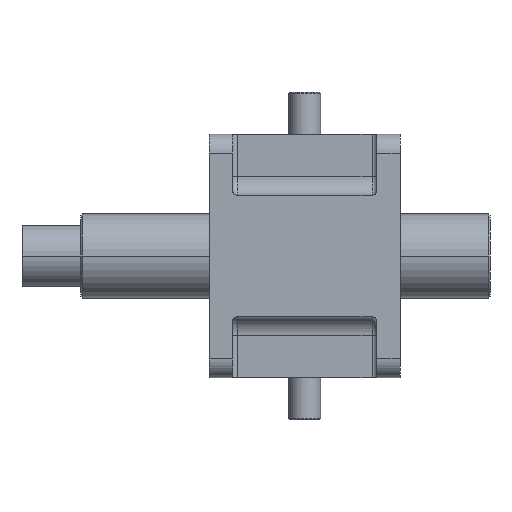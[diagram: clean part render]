
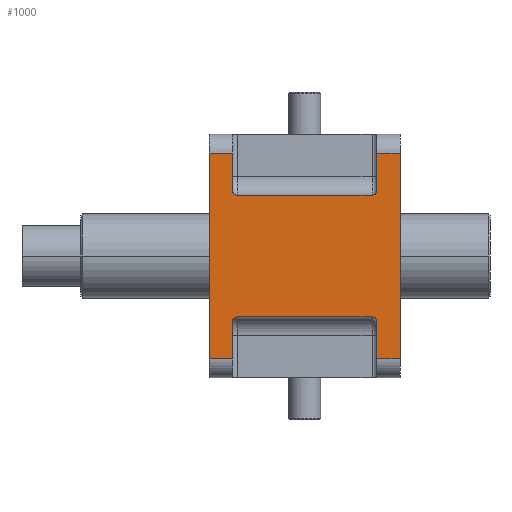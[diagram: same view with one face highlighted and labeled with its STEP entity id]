
A CAD part, left-side view. The second image highlights one B-rep face of the part: STEP entity #1000.
In plain terms, the highlighted planar face has unit normal (-1, 0, 0).
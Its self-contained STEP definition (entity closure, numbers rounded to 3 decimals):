
#249 = VERTEX_POINT ( 'NONE', #2420 ) ;
#293 = VERTEX_POINT ( 'NONE', #2484 ) ;
#979 = ORIENTED_EDGE ( 'NONE', *, *, #1013, .T. ) ;
#980 = EDGE_CURVE ( 'NONE', #992, #984, #3575, .T. ) ;
#981 = EDGE_CURVE ( 'NONE', #249, #984, #3634, .T. ) ;
#982 = ORIENTED_EDGE ( 'NONE', *, *, #980, .F. ) ;
#983 = VERTEX_POINT ( 'NONE', #3630 ) ;
#984 = VERTEX_POINT ( 'NONE', #3629 ) ;
#985 = ORIENTED_EDGE ( 'NONE', *, *, #981, .T. ) ;
#988 = EDGE_CURVE ( 'NONE', #293, #983, #3628, .T. ) ;
#990 = EDGE_CURVE ( 'NONE', #993, #992, #3624, .T. ) ;
#992 = VERTEX_POINT ( 'NONE', #3620 ) ;
#993 = VERTEX_POINT ( 'NONE', #3619 ) ;
#994 = ORIENTED_EDGE ( 'NONE', *, *, #990, .F. ) ;
#997 = ORIENTED_EDGE ( 'NONE', *, *, #988, .F. ) ;
#998 = EDGE_LOOP ( 'NONE', ( #997, #979, #985, #982, #994, #1030, #1016, #1017, #1022, #1007, #1042, #1044, #1046, #1039, #1035, #1054 ) ) ;
#1000 = ADVANCED_FACE ( 'NONE', ( #3612 ), #3607, .F. ) ;
#1007 = ORIENTED_EDGE ( 'NONE', *, *, #1014, .F. ) ;
#1008 = VERTEX_POINT ( 'NONE', #3657 ) ;
#1011 = EDGE_CURVE ( 'NONE', #1018, #1012, #3656, .T. ) ;
#1012 = VERTEX_POINT ( 'NONE', #3652 ) ;
#1013 = EDGE_CURVE ( 'NONE', #293, #249, #3651, .T. ) ;
#1014 = EDGE_CURVE ( 'NONE', #1008, #1012, #3647, .T. ) ;
#1016 = ORIENTED_EDGE ( 'NONE', *, *, #1019, .T. ) ;
#1017 = ORIENTED_EDGE ( 'NONE', *, *, #1021, .T. ) ;
#1018 = VERTEX_POINT ( 'NONE', #3643 ) ;
#1019 = EDGE_CURVE ( 'NONE', #1023, #1020, #3642, .T. ) ;
#1020 = VERTEX_POINT ( 'NONE', #3638 ) ;
#1021 = EDGE_CURVE ( 'NONE', #1020, #1018, #3700, .T. ) ;
#1022 = ORIENTED_EDGE ( 'NONE', *, *, #1011, .T. ) ;
#1023 = VERTEX_POINT ( 'NONE', #3695 ) ;
#1026 = VERTEX_POINT ( 'NONE', #3688 ) ;
#1028 = EDGE_CURVE ( 'NONE', #993, #1023, #3687, .T. ) ;
#1030 = ORIENTED_EDGE ( 'NONE', *, *, #1028, .T. ) ;
#1034 = VERTEX_POINT ( 'NONE', #3677 ) ;
#1035 = ORIENTED_EDGE ( 'NONE', *, *, #1038, .F. ) ;
#1036 = VERTEX_POINT ( 'NONE', #3676 ) ;
#1037 = EDGE_CURVE ( 'NONE', #1036, #1034, #3674, .T. ) ;
#1038 = EDGE_CURVE ( 'NONE', #1026, #1034, #3675, .T. ) ;
#1039 = ORIENTED_EDGE ( 'NONE', *, *, #1037, .T. ) ;
#1040 = VERTEX_POINT ( 'NONE', #3666 ) ;
#1041 = EDGE_CURVE ( 'NONE', #1045, #1036, #3734, .T. ) ;
#1042 = ORIENTED_EDGE ( 'NONE', *, *, #1043, .F. ) ;
#1043 = EDGE_CURVE ( 'NONE', #1040, #1008, #3730, .T. ) ;
#1044 = ORIENTED_EDGE ( 'NONE', *, *, #1047, .T. ) ;
#1045 = VERTEX_POINT ( 'NONE', #3726 ) ;
#1046 = ORIENTED_EDGE ( 'NONE', *, *, #1041, .T. ) ;
#1047 = EDGE_CURVE ( 'NONE', #1040, #1045, #3725, .T. ) ;
#1054 = ORIENTED_EDGE ( 'NONE', *, *, #1055, .T. ) ;
#1055 = EDGE_CURVE ( 'NONE', #1026, #983, #3763, .T. ) ;
#2420 = CARTESIAN_POINT ( 'NONE',  ( -57.404, 0., -191.52 ) ) ;
#2484 = CARTESIAN_POINT ( 'NONE',  ( -57.404, 25., -191.52 ) ) ;
#3575 = LINE ( 'NONE', #3637, #3636 ) ;
#3606 = CARTESIAN_POINT ( 'NONE',  ( -57.404, 204., -191.52 ) ) ;
#3607 = PLANE ( 'NONE',  #3664 ) ;
#3612 = FACE_OUTER_BOUND ( 'NONE', #998, .T. ) ;
#3619 = CARTESIAN_POINT ( 'NONE',  ( -57.404, 25., -11.52 ) ) ;
#3620 = CARTESIAN_POINT ( 'NONE',  ( -57.404, 25., 28.48 ) ) ;
#3621 = DIRECTION ( 'NONE',  ( 0., 0., 1. ) ) ;
#3622 = VECTOR ( 'NONE', #3621, 1000. ) ;
#3623 = CARTESIAN_POINT ( 'NONE',  ( -57.404, 25., 48.48 ) ) ;
#3624 = LINE ( 'NONE', #3623, #3622 ) ;
#3625 = DIRECTION ( 'NONE',  ( 0., 0., 1. ) ) ;
#3626 = VECTOR ( 'NONE', #3625, 1000. ) ;
#3627 = CARTESIAN_POINT ( 'NONE',  ( -57.404, 25., -211.52 ) ) ;
#3628 = LINE ( 'NONE', #3627, #3626 ) ;
#3629 = CARTESIAN_POINT ( 'NONE',  ( -57.404, 0., 28.48 ) ) ;
#3630 = CARTESIAN_POINT ( 'NONE',  ( -57.404, 25., -151.52 ) ) ;
#3631 = DIRECTION ( 'NONE',  ( 0., 0., 1. ) ) ;
#3632 = VECTOR ( 'NONE', #3631, 1000. ) ;
#3633 = CARTESIAN_POINT ( 'NONE',  ( -57.404, 0., -191.52 ) ) ;
#3634 = LINE ( 'NONE', #3633, #3632 ) ;
#3635 = DIRECTION ( 'NONE',  ( 0., -1., 0. ) ) ;
#3636 = VECTOR ( 'NONE', #3635, 1000. ) ;
#3637 = CARTESIAN_POINT ( 'NONE',  ( -57.404, 204., 28.48 ) ) ;
#3638 = CARTESIAN_POINT ( 'NONE',  ( -57.404, 174., -16.52 ) ) ;
#3639 = DIRECTION ( 'NONE',  ( 0., 1., 0. ) ) ;
#3640 = VECTOR ( 'NONE', #3639, 1000. ) ;
#3641 = CARTESIAN_POINT ( 'NONE',  ( -57.404, 25., -16.52 ) ) ;
#3642 = LINE ( 'NONE', #3641, #3640 ) ;
#3643 = CARTESIAN_POINT ( 'NONE',  ( -57.404, 179., -11.52 ) ) ;
#3644 = DIRECTION ( 'NONE',  ( 0., -1., 0. ) ) ;
#3645 = VECTOR ( 'NONE', #3644, 1000. ) ;
#3646 = CARTESIAN_POINT ( 'NONE',  ( -57.404, 204., 28.48 ) ) ;
#3647 = LINE ( 'NONE', #3646, #3645 ) ;
#3648 = DIRECTION ( 'NONE',  ( 0., -1., 0. ) ) ;
#3649 = VECTOR ( 'NONE', #3648, 1000. ) ;
#3650 = CARTESIAN_POINT ( 'NONE',  ( -57.404, 204., -191.52 ) ) ;
#3651 = LINE ( 'NONE', #3650, #3649 ) ;
#3652 = CARTESIAN_POINT ( 'NONE',  ( -57.404, 179., 28.48 ) ) ;
#3653 = DIRECTION ( 'NONE',  ( 0., 0., 1. ) ) ;
#3654 = VECTOR ( 'NONE', #3653, 1000. ) ;
#3655 = CARTESIAN_POINT ( 'NONE',  ( -57.404, 179., 48.48 ) ) ;
#3656 = LINE ( 'NONE', #3655, #3654 ) ;
#3657 = CARTESIAN_POINT ( 'NONE',  ( -57.404, 204., 28.48 ) ) ;
#3662 = DIRECTION ( 'NONE',  ( 0., 0., -1. ) ) ;
#3663 = DIRECTION ( 'NONE',  ( 1., 0., 0. ) ) ;
#3664 = AXIS2_PLACEMENT_3D ( 'NONE', #3606, #3663, #3662 ) ;
#3666 = CARTESIAN_POINT ( 'NONE',  ( -57.404, 204., -191.52 ) ) ;
#3667 = DIRECTION ( 'NONE',  ( 0., 1., 0. ) ) ;
#3668 = VECTOR ( 'NONE', #3667, 1000. ) ;
#3669 = CARTESIAN_POINT ( 'NONE',  ( -57.404, 25., -146.52 ) ) ;
#3670 = DIRECTION ( 'NONE',  ( 0., 0., -1. ) ) ;
#3671 = DIRECTION ( 'NONE',  ( 1., 0., 0. ) ) ;
#3672 = CARTESIAN_POINT ( 'NONE',  ( -57.404, 174., -151.52 ) ) ;
#3673 = AXIS2_PLACEMENT_3D ( 'NONE', #3672, #3671, #3670 ) ;
#3674 = CIRCLE ( 'NONE', #3673, 5. ) ;
#3675 = LINE ( 'NONE', #3669, #3668 ) ;
#3676 = CARTESIAN_POINT ( 'NONE',  ( -57.404, 179., -151.52 ) ) ;
#3677 = CARTESIAN_POINT ( 'NONE',  ( -57.404, 174., -146.52 ) ) ;
#3683 = DIRECTION ( 'NONE',  ( 0., 0., -1. ) ) ;
#3684 = DIRECTION ( 'NONE',  ( 1., 0., 0. ) ) ;
#3685 = CARTESIAN_POINT ( 'NONE',  ( -57.404, 30., -11.52 ) ) ;
#3686 = AXIS2_PLACEMENT_3D ( 'NONE', #3685, #3684, #3683 ) ;
#3687 = CIRCLE ( 'NONE', #3686, 5. ) ;
#3688 = CARTESIAN_POINT ( 'NONE',  ( -57.404, 30., -146.52 ) ) ;
#3695 = CARTESIAN_POINT ( 'NONE',  ( -57.404, 30., -16.52 ) ) ;
#3696 = DIRECTION ( 'NONE',  ( 0., 0., -1. ) ) ;
#3697 = DIRECTION ( 'NONE',  ( 1., 0., 0. ) ) ;
#3698 = CARTESIAN_POINT ( 'NONE',  ( -57.404, 174., -11.52 ) ) ;
#3699 = AXIS2_PLACEMENT_3D ( 'NONE', #3698, #3697, #3696 ) ;
#3700 = CIRCLE ( 'NONE', #3699, 5. ) ;
#3722 = DIRECTION ( 'NONE',  ( 0., -1., 0. ) ) ;
#3723 = VECTOR ( 'NONE', #3722, 1000. ) ;
#3724 = CARTESIAN_POINT ( 'NONE',  ( -57.404, 204., -191.52 ) ) ;
#3725 = LINE ( 'NONE', #3724, #3723 ) ;
#3726 = CARTESIAN_POINT ( 'NONE',  ( -57.404, 179., -191.52 ) ) ;
#3727 = DIRECTION ( 'NONE',  ( 0., 0., 1. ) ) ;
#3728 = VECTOR ( 'NONE', #3727, 1000. ) ;
#3729 = CARTESIAN_POINT ( 'NONE',  ( -57.404, 204., -191.52 ) ) ;
#3730 = LINE ( 'NONE', #3729, #3728 ) ;
#3731 = DIRECTION ( 'NONE',  ( 0., 0., 1. ) ) ;
#3732 = VECTOR ( 'NONE', #3731, 1000. ) ;
#3733 = CARTESIAN_POINT ( 'NONE',  ( -57.404, 179., -211.52 ) ) ;
#3734 = LINE ( 'NONE', #3733, #3732 ) ;
#3759 = DIRECTION ( 'NONE',  ( 0., 0., -1. ) ) ;
#3760 = DIRECTION ( 'NONE',  ( 1., 0., 0. ) ) ;
#3761 = CARTESIAN_POINT ( 'NONE',  ( -57.404, 30., -151.52 ) ) ;
#3762 = AXIS2_PLACEMENT_3D ( 'NONE', #3761, #3760, #3759 ) ;
#3763 = CIRCLE ( 'NONE', #3762, 5. ) ;
